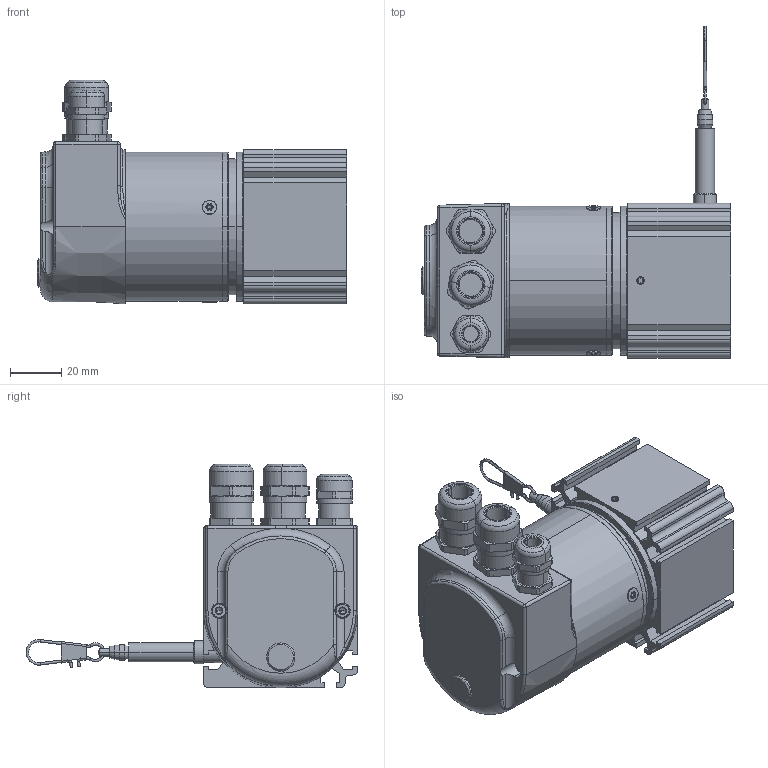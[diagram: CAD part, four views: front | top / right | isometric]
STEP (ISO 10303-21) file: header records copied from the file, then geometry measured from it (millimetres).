
FILE_DESCRIPTION((''),'2;1');
FILE_NAME('WDS-1000-P60-BH-CO_02_ASM','2024-05-21T14:33:41',('15000597'),(''),'CREO PARAMETRIC BY PTC INC, 2022164','CREO PARAMETRIC BY PTC INC, 2022164','');
FILE_SCHEMA(('AUTOMOTIVE_DESIGN { 1 0 10303 214 1 1 1 1 }'));
Length unit declared in the file: millimetre
Products named in the file (9): BAU_KLEMM_CO_EN580CIML-SC10IHH2; ADAPTER_36_AF1; TELESO_SENZORU_P60_100_AF2; VIKO_PR55_TL1MM; PRUCHODKA_LANKA_P60_AF2; SROUB_ISO4026_STAV_HEX_M3X3_AF2; SROUB_ISO4026_STAV_HEX_M3X3_AF3; KARABINKA25_AF1; WDS-1000-P60-BH-CO_02_ASM
Assembly tree (8 placements, depth 2):
  WDS-1000-P60-BH-CO_02_ASM
    BAU_KLEMM_CO_EN580CIML-SC10IHH2
    ADAPTER_36_AF1
    TELESO_SENZORU_P60_100_AF2
    VIKO_PR55_TL1MM
    PRUCHODKA_LANKA_P60_AF2
    SROUB_ISO4026_STAV_HEX_M3X3_AF2
    SROUB_ISO4026_STAV_HEX_M3X3_AF3
    KARABINKA25_AF1
Bounding box: 120.2 x 128.99 x 87 mm (x, y, z)
Volume: 35042.3 mm3; surface area: 64659.8 mm2
Topology: 7 solids, 14 shells, 765 faces, 1927 edges, 1191 vertices
Faces by surface type: cylinder 244, plane 217, cone 167, torus 118, bspline 13, sphere 6
Entity records: 33185 total; most frequent: CARTESIAN_POINT 8212, DIRECTION 3985, ORIENTED_EDGE 3766, PRESENTATION_STYLE_ASSIGNMENT 1917, STYLED_ITEM 1913, CURVE_STYLE 1899, EDGE_CURVE 1899, AXIS2_PLACEMENT_3D 1638
